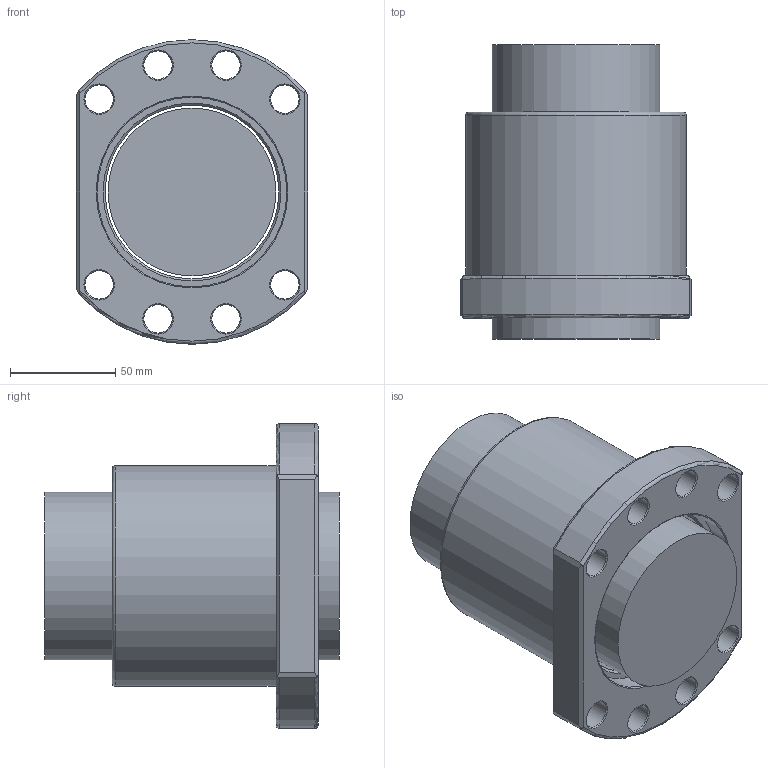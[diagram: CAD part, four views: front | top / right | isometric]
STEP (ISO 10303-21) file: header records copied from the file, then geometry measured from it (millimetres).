
FILE_DESCRIPTION(/* description */ (''),/* implementation_level */ '2;1');
FILE_NAME(/* name */ '8010.prt.step',/* time_stamp */ '2008-12-05T16:32:45+08:00',/* author */ (''),/* organization */ (''),/* preprocessor_version */ 'ST-DEVELOPER v11',/* originating_system */ 'SIEMENS UGS NX 6.0',/* authorisation */ '');
FILE_SCHEMA (('AUTOMOTIVE_DESIGN { 1 0 10303 214 1 1 1 1 }'));
Length unit declared in the file: millimetre
Products named in the file (1): 8010
Bounding box: 110 x 140 x 145 mm (x, y, z)
Volume: 1091379.4 mm3; surface area: 126408 mm2
Topology: 2 solids, 2 shells, 57 faces, 132 edges, 82 vertices
Faces by surface type: cone 18, plane 17, cylinder 15, torus 7
Full cylindrical faces by diameter (mm): 13.5 x8, 79.95 x1, 82.7 x1, 90.3 x2, 105 x1
Entity records: 1694 total; most frequent: CARTESIAN_POINT 472, DIRECTION 250, ORIENTED_EDGE 190, AXIS2_PLACEMENT_3D 113, EDGE_LOOP 112, EDGE_CURVE 95, FACE_BOUND 94, VERTEX_POINT 79
